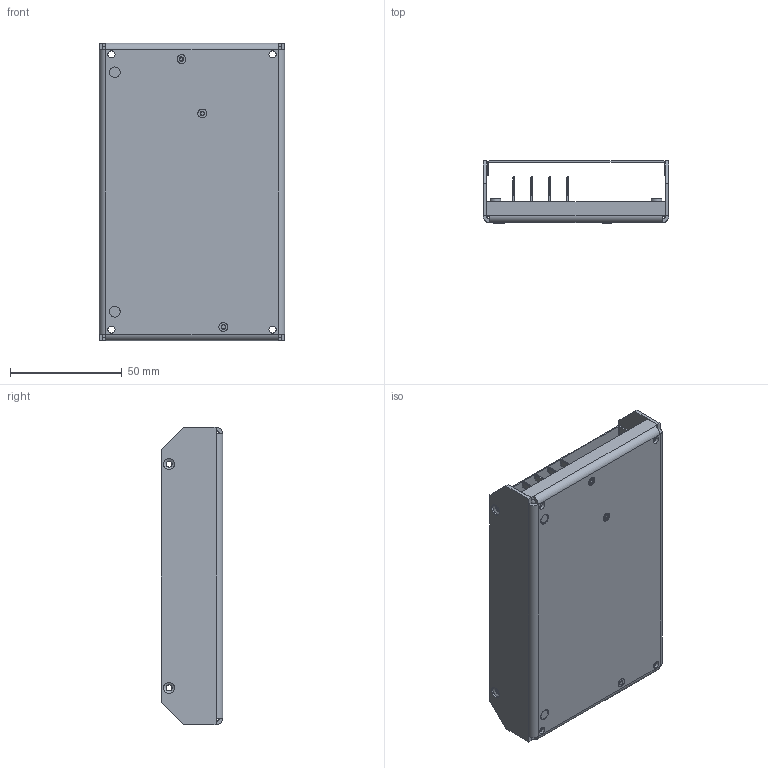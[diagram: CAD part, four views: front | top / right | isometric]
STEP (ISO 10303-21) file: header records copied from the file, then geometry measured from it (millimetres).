
FILE_DESCRIPTION(('STEP AP214'), '1');
FILE_NAME('JETAF15-380_blade', '', ('UNSPECIFIED'), ('UNSPECIFIED'), 'ASCON STEP Converter 1.3', 'ASCON Math Kernel', '');
FILE_SCHEMA(('AUTOMOTIVE_DESIGN { 1 0 10303 214 3 1 1}'));
Length unit declared in the file: millimetre
Products named in the file (1): JETAF15-380_blade
Bounding box: 83 x 27.58 x 133 mm (x, y, z)
Volume: 34918.7 mm3; surface area: 78520.8 mm2
Topology: 1 solids, 1 shells, 727 faces, 1905 edges, 1234 vertices
Faces by surface type: plane 460, cylinder 223, bspline 24, cone 16, torus 4
Full cylindrical faces by diameter (mm): 0.2 x7, 1.567 x3, 2.7 x7, 2.835 x2, 3.15 x5, 3.18 x2, 3.2 x4, 3.3 x4, 3.88 x2, 3.96 x3, 4.093 x4, 4.2 x6, 4.22 x2, 4.76 x8, 4.8 x2, 5 x4
Entity records: 33276 total; most frequent: CARTESIAN_POINT 9818, ORIENTED_EDGE 3638, DIRECTION 3493, EDGE_CURVE 1819, VERTEX_POINT 1232, LINE 1225, VECTOR 1225, AXIS2_PLACEMENT_3D 1134
